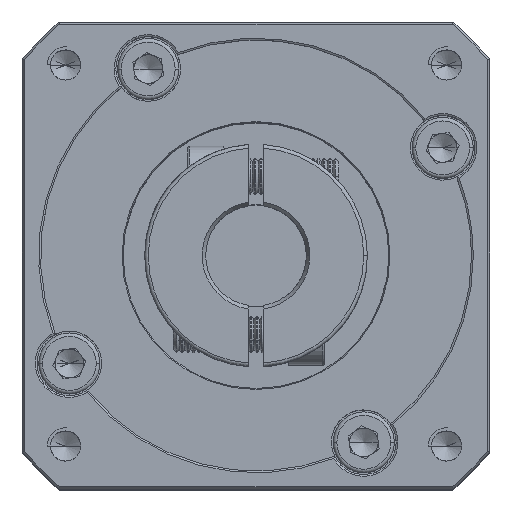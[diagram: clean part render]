
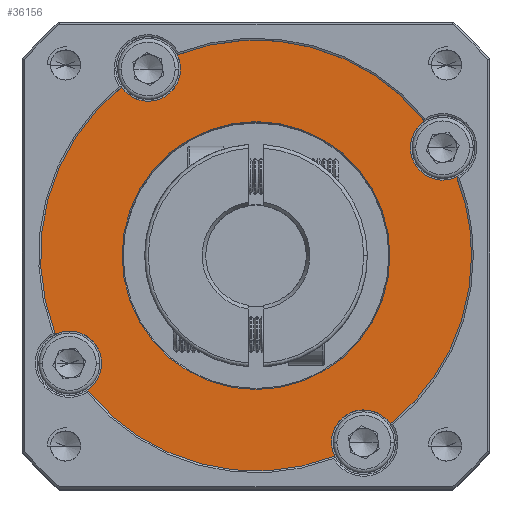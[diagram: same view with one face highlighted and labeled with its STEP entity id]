
A CAD part, top view. The second image highlights one B-rep face of the part: STEP entity #36156.
In plain terms, the highlighted planar face has unit normal (0, 0, 1).
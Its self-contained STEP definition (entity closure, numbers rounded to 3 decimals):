
#382 = CARTESIAN_POINT ( 'NONE',  ( -27.67, 54.886, 31.124 ) ) ;
#1344 = AXIS2_PLACEMENT_3D ( 'NONE', #81880, #30970, #90356 ) ;
#1369 = DIRECTION ( 'NONE',  ( 1., 0., 0. ) ) ;
#2829 = CARTESIAN_POINT ( 'NONE',  ( -30.206, 58.603, 31.124 ) ) ;
#3138 = CARTESIAN_POINT ( 'NONE',  ( -64.596, 67.818, 31.124 ) ) ;
#3377 = VERTEX_POINT ( 'NONE', #42412 ) ;
#4241 = DIRECTION ( 'NONE',  ( 0., 0., 1. ) ) ;
#4769 = CIRCLE ( 'NONE', #99967, 4.5 ) ;
#5005 = FACE_OUTER_BOUND ( 'NONE', #91942, .T. ) ;
#6574 = CARTESIAN_POINT ( 'NONE',  ( -64.151, 65.867, 31.124 ) ) ;
#7516 = VERTEX_POINT ( 'NONE', #6574 ) ;
#8151 = CARTESIAN_POINT ( 'NONE',  ( -35.006, 39.886, 31.124 ) ) ;
#8951 = DIRECTION ( 'NONE',  ( 1., 0., 0. ) ) ;
#9280 = VERTEX_POINT ( 'NONE', #2829 ) ;
#9390 = CIRCLE ( 'NONE', #66158, 4.5 ) ;
#10279 = AXIS2_PLACEMENT_3D ( 'NONE', #49988, #108819, #58622 ) ;
#12693 = VERTEX_POINT ( 'NONE', #14304 ) ;
#14258 = VERTEX_POINT ( 'NONE', #67581 ) ;
#14304 = CARTESIAN_POINT ( 'NONE',  ( -43.151, 13.905, 31.124 ) ) ;
#15917 = CARTESIAN_POINT ( 'NONE',  ( -79.631, 24.886, 31.124 ) ) ;
#16021 = ORIENTED_EDGE ( 'NONE', *, *, #21576, .T. ) ;
#16467 = CARTESIAN_POINT ( 'NONE',  ( -53.651, 39.886, 31.124 ) ) ;
#16979 = ORIENTED_EDGE ( 'NONE', *, *, #49268, .T. ) ;
#17194 = ORIENTED_EDGE ( 'NONE', *, *, #42111, .F. ) ;
#17197 = DIRECTION ( 'NONE',  ( 0., 0., 1. ) ) ;
#17599 = DIRECTION ( 'NONE',  ( 0., 0., 1. ) ) ;
#18979 = VERTEX_POINT ( 'NONE', #3138 ) ;
#19103 = DIRECTION ( 'NONE',  ( 0., 0., -1. ) ) ;
#19331 = CARTESIAN_POINT ( 'NONE',  ( -53.651, 39.886, 31.124 ) ) ;
#19772 = FACE_BOUND ( 'NONE', #92981, .T. ) ;
#21561 = CARTESIAN_POINT ( 'NONE',  ( -68.651, 65.867, 31.124 ) ) ;
#21576 = EDGE_CURVE ( 'NONE', #76426, #77220, #66802, .T. ) ;
#22529 = ORIENTED_EDGE ( 'NONE', *, *, #92490, .T. ) ;
#22940 = ORIENTED_EDGE ( 'NONE', *, *, #48679, .F. ) ;
#23095 = AXIS2_PLACEMENT_3D ( 'NONE', #21561, #80991, #30057 ) ;
#23230 = AXIS2_PLACEMENT_3D ( 'NONE', #47901, #106765, #56520 ) ;
#24169 = CARTESIAN_POINT ( 'NONE',  ( -25.719, 50.831, 31.124 ) ) ;
#24213 = ORIENTED_EDGE ( 'NONE', *, *, #49282, .F. ) ;
#24425 = ORIENTED_EDGE ( 'NONE', *, *, #95837, .T. ) ;
#24453 = DIRECTION ( 'NONE',  ( 1., 0., 0. ) ) ;
#25018 = DIRECTION ( 'NONE',  ( 1., 0., 0. ) ) ;
#26525 = DIRECTION ( 'NONE',  ( 0., 0., 1. ) ) ;
#26612 = ORIENTED_EDGE ( 'NONE', *, *, #68516, .T. ) ;
#26723 = AXIS2_PLACEMENT_3D ( 'NONE', #15917, #75378, #24453 ) ;
#27870 = DIRECTION ( 'NONE',  ( 1., 0., 0. ) ) ;
#28729 = CARTESIAN_POINT ( 'NONE',  ( -81.583, 28.941, 31.124 ) ) ;
#30057 = DIRECTION ( 'NONE',  ( 1., 0., 0. ) ) ;
#30195 = CIRCLE ( 'NONE', #58529, 4.5 ) ;
#30494 = ORIENTED_EDGE ( 'NONE', *, *, #63850, .F. ) ;
#30597 = ORIENTED_EDGE ( 'NONE', *, *, #50086, .F. ) ;
#30970 = DIRECTION ( 'NONE',  ( 0., 0., 1. ) ) ;
#31705 = ORIENTED_EDGE ( 'NONE', *, *, #51067, .T. ) ;
#32330 = ORIENTED_EDGE ( 'NONE', *, *, #52062, .F. ) ;
#32574 = CIRCLE ( 'NONE', #44229, 18.644 ) ;
#32884 = VERTEX_POINT ( 'NONE', #93040 ) ;
#33992 = ORIENTED_EDGE ( 'NONE', *, *, #45907, .F. ) ;
#34959 = CIRCLE ( 'NONE', #26723, 4.5 ) ;
#35605 = VERTEX_POINT ( 'NONE', #24169 ) ;
#36156 = ADVANCED_FACE ( 'NONE', ( #19772, #5005 ), #108536, .T. ) ;
#37852 = DIRECTION ( 'NONE',  ( 0., 0., 1. ) ) ;
#38194 = ORIENTED_EDGE ( 'NONE', *, *, #95016, .T. ) ;
#38275 = ORIENTED_EDGE ( 'NONE', *, *, #52227, .F. ) ;
#39276 = AXIS2_PLACEMENT_3D ( 'NONE', #68593, #17599, #77083 ) ;
#39564 = VERTEX_POINT ( 'NONE', #43463 ) ;
#42111 = EDGE_CURVE ( 'NONE', #70419, #3377, #4769, .T. ) ;
#42412 = CARTESIAN_POINT ( 'NONE',  ( -75.131, 24.886, 31.124 ) ) ;
#43463 = CARTESIAN_POINT ( 'NONE',  ( -23.651, 39.886, 31.124 ) ) ;
#43560 = CARTESIAN_POINT ( 'NONE',  ( -34.933, 16.441, 31.124 ) ) ;
#44229 = AXIS2_PLACEMENT_3D ( 'NONE', #19331, #78807, #27870 ) ;
#45463 = DIRECTION ( 'NONE',  ( 0., 0., 1. ) ) ;
#45907 = EDGE_CURVE ( 'NONE', #76227, #7516, #52109, .T. ) ;
#47102 = CIRCLE ( 'NONE', #23095, 4.5 ) ;
#47339 = AXIS2_PLACEMENT_3D ( 'NONE', #88613, #37852, #96994 ) ;
#47901 = CARTESIAN_POINT ( 'NONE',  ( -53.651, 39.886, 31.124 ) ) ;
#48679 = EDGE_CURVE ( 'NONE', #12693, #14258, #30195, .T. ) ;
#49268 = EDGE_CURVE ( 'NONE', #77220, #76426, #32574, .T. ) ;
#49282 = EDGE_CURVE ( 'NONE', #58184, #12693, #86989, .T. ) ;
#49988 = CARTESIAN_POINT ( 'NONE',  ( -53.651, 39.886, 31.124 ) ) ;
#50086 = EDGE_CURVE ( 'NONE', #9280, #32884, #84017, .T. ) ;
#51067 = EDGE_CURVE ( 'NONE', #9280, #18979, #59922, .T. ) ;
#52062 = EDGE_CURVE ( 'NONE', #7516, #18979, #47102, .T. ) ;
#52109 = CIRCLE ( 'NONE', #47339, 4.5 ) ;
#52227 = EDGE_CURVE ( 'NONE', #3377, #65601, #34959, .T. ) ;
#52521 = DIRECTION ( 'NONE',  ( 0., 0., 1. ) ) ;
#55424 = CARTESIAN_POINT ( 'NONE',  ( -53.651, 39.886, 31.124 ) ) ;
#56520 = DIRECTION ( 'NONE',  ( 1., 0., 0. ) ) ;
#58184 = VERTEX_POINT ( 'NONE', #43560 ) ;
#58529 = AXIS2_PLACEMENT_3D ( 'NONE', #68227, #17197, #76675 ) ;
#58622 = DIRECTION ( 'NONE',  ( 1., 0., 0. ) ) ;
#59922 = CIRCLE ( 'NONE', #94689, 30. ) ;
#60203 = DIRECTION ( 'NONE',  ( 0., 0., 1. ) ) ;
#60337 = CIRCLE ( 'NONE', #23230, 30. ) ;
#63850 = EDGE_CURVE ( 'NONE', #32884, #35605, #9390, .T. ) ;
#63971 = DIRECTION ( 'NONE',  ( 1., 0., 0. ) ) ;
#65601 = VERTEX_POINT ( 'NONE', #28729 ) ;
#65924 = CIRCLE ( 'NONE', #1344, 30. ) ;
#66158 = AXIS2_PLACEMENT_3D ( 'NONE', #382, #60203, #8951 ) ;
#66802 = CIRCLE ( 'NONE', #91576, 18.644 ) ;
#67581 = CARTESIAN_POINT ( 'NONE',  ( -42.706, 11.954, 31.124 ) ) ;
#68227 = CARTESIAN_POINT ( 'NONE',  ( -38.651, 13.905, 31.124 ) ) ;
#68516 = EDGE_CURVE ( 'NONE', #39564, #35605, #74809, .T. ) ;
#68593 = CARTESIAN_POINT ( 'NONE',  ( -27.67, 54.886, 31.124 ) ) ;
#69012 = AXIS2_PLACEMENT_3D ( 'NONE', #16467, #75960, #25018 ) ;
#70096 = CARTESIAN_POINT ( 'NONE',  ( -53.651, 39.886, 31.124 ) ) ;
#70419 = VERTEX_POINT ( 'NONE', #95420 ) ;
#74809 = CIRCLE ( 'NONE', #10279, 30. ) ;
#75378 = DIRECTION ( 'NONE',  ( 0., 0., 1. ) ) ;
#75960 = DIRECTION ( 'NONE',  ( 0., 0., 1. ) ) ;
#76227 = VERTEX_POINT ( 'NONE', #90669 ) ;
#76426 = VERTEX_POINT ( 'NONE', #8151 ) ;
#76675 = DIRECTION ( 'NONE',  ( 1., 0., 0. ) ) ;
#77083 = DIRECTION ( 'NONE',  ( 1., 0., 0. ) ) ;
#77220 = VERTEX_POINT ( 'NONE', #99230 ) ;
#77454 = CARTESIAN_POINT ( 'NONE',  ( -79.631, 24.886, 31.124 ) ) ;
#78563 = DIRECTION ( 'NONE',  ( 1., 0., 0. ) ) ;
#78807 = DIRECTION ( 'NONE',  ( 0., 0., -1. ) ) ;
#80991 = DIRECTION ( 'NONE',  ( 0., 0., 1. ) ) ;
#81880 = CARTESIAN_POINT ( 'NONE',  ( -53.651, 39.886, 31.124 ) ) ;
#84017 = CIRCLE ( 'NONE', #39276, 4.5 ) ;
#85888 = DIRECTION ( 'NONE',  ( 1., 0., 0. ) ) ;
#86989 = CIRCLE ( 'NONE', #89585, 4.5 ) ;
#88613 = CARTESIAN_POINT ( 'NONE',  ( -68.651, 65.867, 31.124 ) ) ;
#89585 = AXIS2_PLACEMENT_3D ( 'NONE', #96011, #45463, #104363 ) ;
#90356 = DIRECTION ( 'NONE',  ( 1., 0., 0. ) ) ;
#90669 = CARTESIAN_POINT ( 'NONE',  ( -72.368, 63.331, 31.124 ) ) ;
#91576 = AXIS2_PLACEMENT_3D ( 'NONE', #70096, #19103, #78563 ) ;
#91942 = EDGE_LOOP ( 'NONE', ( #17194, #22529, #22940, #24213, #24425, #26612, #30494, #30597, #31705, #32330, #33992, #38194, #38275 ) ) ;
#92490 = EDGE_CURVE ( 'NONE', #70419, #14258, #60337, .T. ) ;
#92981 = EDGE_LOOP ( 'NONE', ( #16021, #16979 ) ) ;
#93040 = CARTESIAN_POINT ( 'NONE',  ( -32.17, 54.886, 31.124 ) ) ;
#94689 = AXIS2_PLACEMENT_3D ( 'NONE', #55424, #4241, #63971 ) ;
#95016 = EDGE_CURVE ( 'NONE', #76227, #65601, #65924, .T. ) ;
#95420 = CARTESIAN_POINT ( 'NONE',  ( -77.095, 21.169, 31.124 ) ) ;
#95837 = EDGE_CURVE ( 'NONE', #58184, #39564, #102217, .T. ) ;
#96011 = CARTESIAN_POINT ( 'NONE',  ( -38.651, 13.905, 31.124 ) ) ;
#96994 = DIRECTION ( 'NONE',  ( 1., 0., 0. ) ) ;
#99230 = CARTESIAN_POINT ( 'NONE',  ( -72.295, 39.886, 31.124 ) ) ;
#99967 = AXIS2_PLACEMENT_3D ( 'NONE', #77454, #26525, #85888 ) ;
#102217 = CIRCLE ( 'NONE', #104386, 30. ) ;
#102879 = CARTESIAN_POINT ( 'NONE',  ( -53.651, 39.886, 31.124 ) ) ;
#104363 = DIRECTION ( 'NONE',  ( 1., 0., 0. ) ) ;
#104386 = AXIS2_PLACEMENT_3D ( 'NONE', #102879, #52521, #1369 ) ;
#106765 = DIRECTION ( 'NONE',  ( 0., 0., 1. ) ) ;
#108536 = PLANE ( 'NONE',  #69012 ) ;
#108819 = DIRECTION ( 'NONE',  ( 0., 0., 1. ) ) ;
